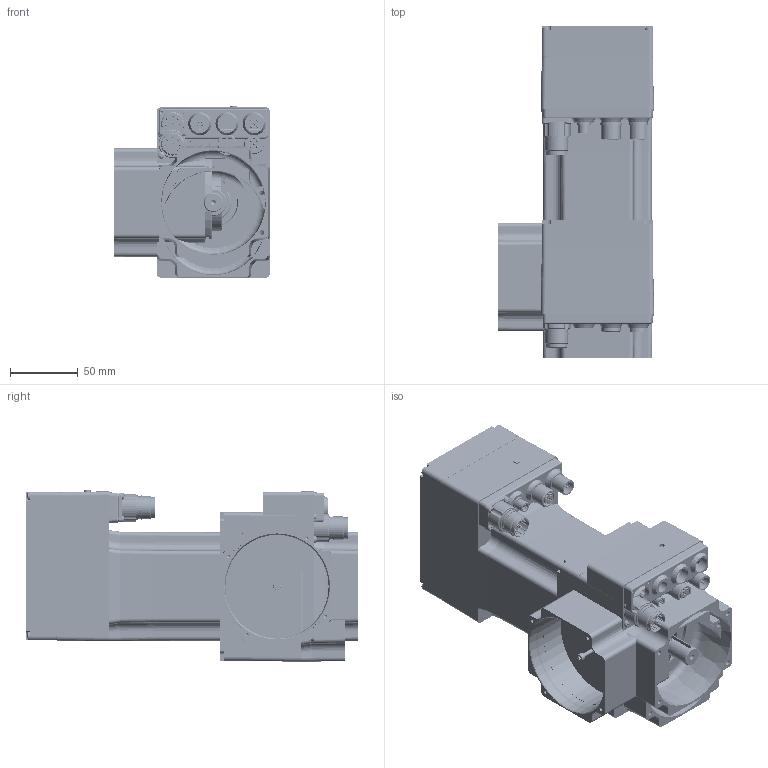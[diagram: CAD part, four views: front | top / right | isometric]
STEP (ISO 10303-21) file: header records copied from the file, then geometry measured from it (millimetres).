
FILE_DESCRIPTION( ( 'Unknown' ), '1' );
FILE_NAME( 'C:/Users/dotti/Desktop/Q0B218/Q0B218 1,5.stp', 'Unknown', ( 'Unknown' ), ( 'Unknown' ), 'PSStep 14.0', 'Unknown', ' ' );
FILE_SCHEMA( ( 'AUTOMOTIVE_DESIGN { 1 0 10303 214 1 1 1 1 }' ) );
Length unit declared in the file: millimetre
Products named in the file (44): Assem1; T00246; 005117000974; N54236; CN M23 PAN-POT BEGA 906 4+5p; VECST-8112 M  2,5 x 12; G00030_profibus; G00029_Profibus; N33250; LI-PIA   5x5 x 25; CUSC_20_42_12_6004_ZZ; CUSC_15_32_9_6002_ZZ; Anello-elastico-chiuso  42; a-ela  20; 003120002083; Anello-elastico-chiuso  32; Vite a brugola testa cil 8,8 -  M  3 x 40; Vite a brugola testa cil 8,8 -  M  3 x 40-oa0; Vite a brugola testa cil 8,8 -  M  3 x 40-oa1; Vite a brugola testa cil 8,8 -  M  3 x 40-oa2; Vite a brugola testa cil 8,8 -  M  3 x 25; Vite a brugola testa cil 8,8 -  M  3 x 25-oa3; Vite a brugola testa cil 8,8 -  M  3 x 25-oa4; Vite a brugola testa cil 8,8 -  M  3 x 25-oa5; VECST-8112 M  3 x 30; N35217; 003016000054; N01393; N54239
Bounding box: 114.5 x 244.13 x 126.21 mm (x, y, z)
Volume: 1061936.5 mm3; surface area: 530375.9 mm2
Topology: 100 solids, 104 shells, 7415 faces, 20219 edges, 13251 vertices
Faces by surface type: plane 4038, cylinder 2535, bspline 283, cone 282, torus 209, sphere 68
Full cylindrical faces by diameter (mm): 1 x39, 1.5 x72, 2 x4, 2.4 x24, 2.459 x40, 2.5 x17, 2.7 x12, 3 x21, 3.242 x4, 3.5 x40, 4 x5, 4.134 x2, 4.2 x2, 5 x11, 5.5 x18, 6 x26, 8 x17, 8.5 x9, 8.75 x3, 9 x6, 10 x3, 11 x15, 11.9 x6, 12 x11, 14 x8, 14.4 x3, 14.5 x3, 14.9 x2, 15 x4, 15.6 x3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
Entity records: 104652 total; most frequent: CARTESIAN_POINT 27321, ORIENTED_EDGE 13428, DIRECTION 13301, EDGE_CURVE 6714, AXIS2_PLACEMENT_3D 4779, VERTEX_POINT 4590, LINE 3743, VECTOR 3743
